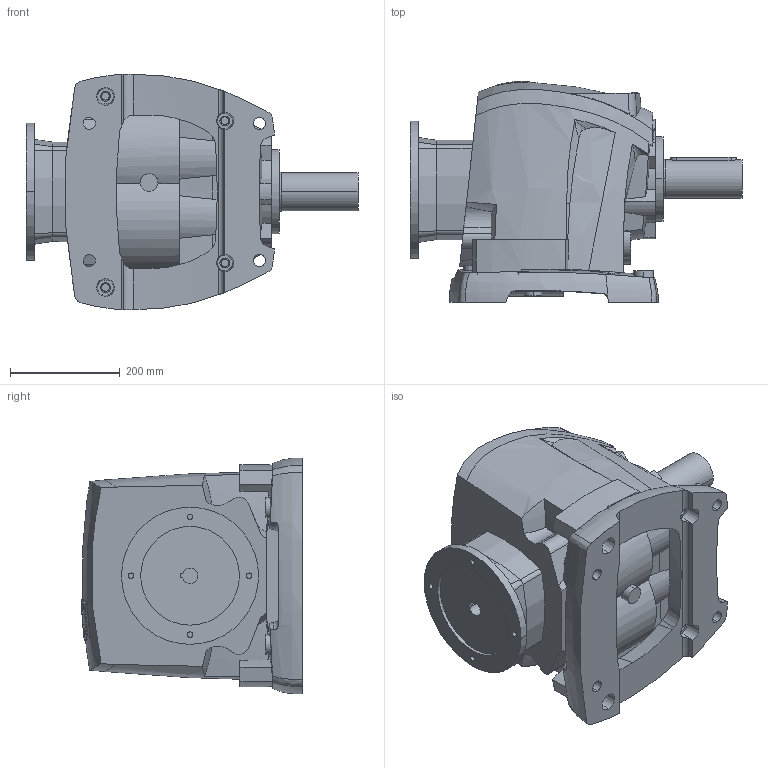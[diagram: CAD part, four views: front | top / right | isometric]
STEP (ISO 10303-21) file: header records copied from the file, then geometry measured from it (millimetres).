
FILE_DESCRIPTION((''),'2;1');
FILE_NAME('R60_SW_PAM100112_D2','2013-12-23T',('Luca'),(''),'PRO/ENGINEER BY PARAMETRIC TECHNOLOGY CORPORATION, 2008230','PRO/ENGINEER BY PARAMETRIC TECHNOLOGY CORPORATION, 2008230','');
FILE_SCHEMA(('CONFIG_CONTROL_DESIGN'));
Length unit declared in the file: millimetre
Products named in the file (1): R60_SW_PAM100112_D2
Bounding box: 605.5 x 402.94 x 429.76 mm (x, y, z)
Volume: 43720399.9 mm3; surface area: 1140558.5 mm2
Topology: 1 solids, 1 shells, 510 faces, 1415 edges, 946 vertices
Faces by surface type: cylinder 189, plane 184, bspline 85, cone 30, torus 19, extrusion 3
Entity records: 21964 total; most frequent: CARTESIAN_POINT 9827, ORIENTED_EDGE 2826, DIRECTION 2031, EDGE_CURVE 1413, VERTEX_POINT 946, AXIS2_PLACEMENT_3D 748, EDGE_LOOP 583, B_SPLINE_CURVE_WITH_KNOTS 558
